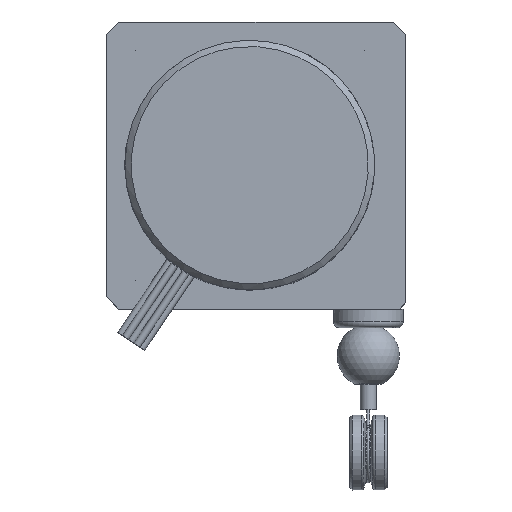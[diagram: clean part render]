
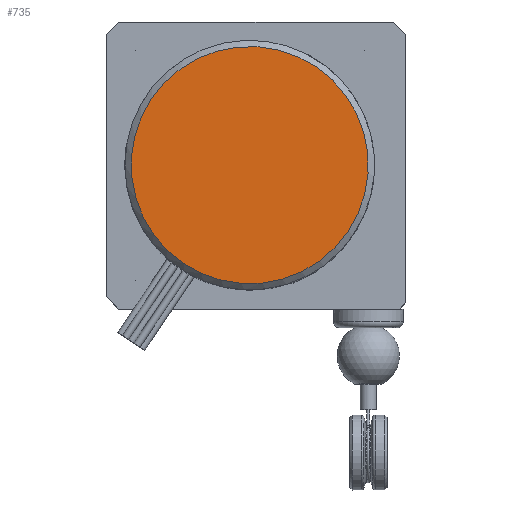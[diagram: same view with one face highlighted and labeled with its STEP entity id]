
A CAD part, top view. The second image highlights one B-rep face of the part: STEP entity #735.
In plain terms, the highlighted planar face has unit normal (0, 0, 1).
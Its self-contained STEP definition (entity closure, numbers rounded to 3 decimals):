
#735=ADVANCED_FACE('',(#1590),#1591,.F.);
#1590=FACE_OUTER_BOUND('',#2611,.T.);
#1591=PLANE('',#2612);
#2611=EDGE_LOOP('',(#4444));
#2612=AXIS2_PLACEMENT_3D('',#4445,#4446,#4447);
#4444=ORIENTED_EDGE('',*,*,#6154,.T.);
#4445=CARTESIAN_POINT('',(-4.145,2.796,27.4));
#4446=DIRECTION('',(0.,0.,-1.0));
#4447=DIRECTION('',(0.829,-0.559,0.));
#6154=EDGE_CURVE('',#7414,#7414,#7415,.F.);
#7414=VERTEX_POINT('',#9776);
#7415=CIRCLE('',#9777,9.5);
#9776=CARTESIAN_POINT('',(7.876,-5.312,27.4));
#9777=AXIS2_PLACEMENT_3D('',#11125,#11126,#11127);
#11125=CARTESIAN_POINT('',(0.,0.,27.4));
#11126=DIRECTION('',(0.,0.,-1.0));
#11127=DIRECTION('',(0.829,-0.559,0.));
